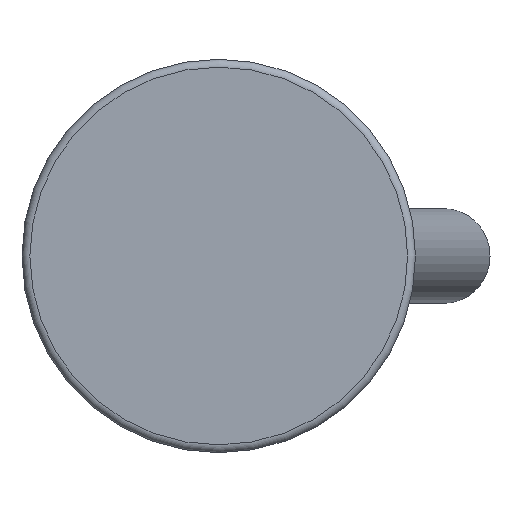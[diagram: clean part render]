
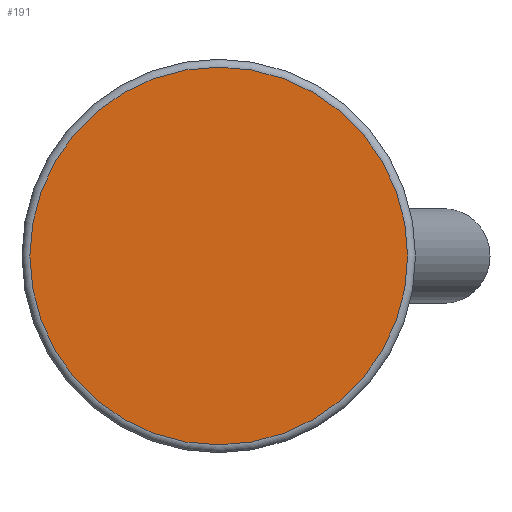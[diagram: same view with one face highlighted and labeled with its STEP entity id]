
A CAD part, front view. The second image highlights one B-rep face of the part: STEP entity #191.
In plain terms, the highlighted planar face has unit normal (0, -1, 0).
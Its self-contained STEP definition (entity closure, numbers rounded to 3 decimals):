
#191 = ADVANCED_FACE( '', ( #378 ), #379, .F. );
#378 = FACE_OUTER_BOUND( '', #578, .T. );
#379 = PLANE( '', #579 );
#578 = EDGE_LOOP( '', ( #866 ) );
#579 = AXIS2_PLACEMENT_3D( '', #867, #868, #869 );
#866 = ORIENTED_EDGE( '', *, *, #1167, .T. );
#867 = CARTESIAN_POINT( '', ( 24., 0., 0. ) );
#868 = DIRECTION( '', ( 0., 1., 0. ) );
#869 = DIRECTION( '', ( 0., 0., 1. ) );
#1167 = EDGE_CURVE( '', #1360, #1360, #1361, .T. );
#1360 = VERTEX_POINT( '', #1682 );
#1361 = CIRCLE( '', #1683, 24. );
#1682 = CARTESIAN_POINT( '', ( 0., 0., -24. ) );
#1683 = AXIS2_PLACEMENT_3D( '', #2055, #2056, #2057 );
#2055 = CARTESIAN_POINT( '', ( 0., 0., 0. ) );
#2056 = DIRECTION( '', ( 0., -1., 0. ) );
#2057 = DIRECTION( '', ( 0., 0., -1. ) );
